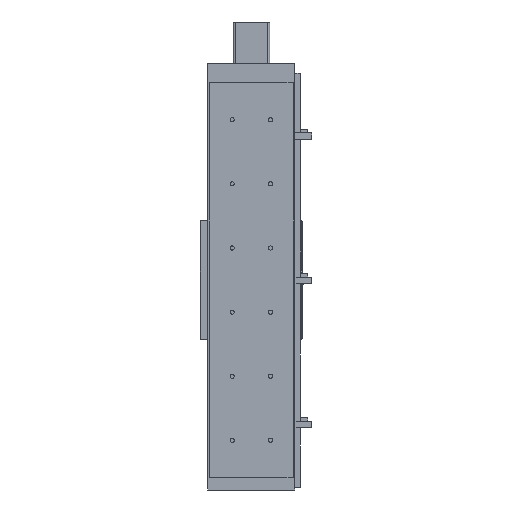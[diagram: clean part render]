
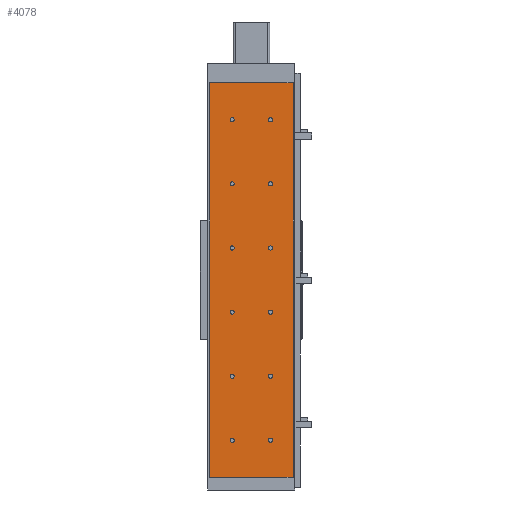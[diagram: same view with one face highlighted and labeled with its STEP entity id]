
A CAD part, front view. The second image highlights one B-rep face of the part: STEP entity #4078.
In plain terms, the highlighted planar face has unit normal (0, -1, 0).
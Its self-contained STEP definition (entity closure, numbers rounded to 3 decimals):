
#2214=CARTESIAN_POINT('',(26.75,0.0,57.5));
#2215=VERTEX_POINT('',#2214);
#2216=CARTESIAN_POINT('',(30.,0.0,57.5));
#2217=DIRECTION('',(0.0,1.0,0.0));
#2218=DIRECTION('',(1.0,0.0,0.0));
#2219=AXIS2_PLACEMENT_3D('',#2216,#2217,#2218);
#2220=CIRCLE('',#2219,3.25);
#2221=EDGE_CURVE('',#2215,#2215,#2220,.T.);
#2255=CARTESIAN_POINT('',(-33.25,0.0,57.5));
#2256=VERTEX_POINT('',#2255);
#2257=CARTESIAN_POINT('',(-30.,0.0,57.5));
#2258=DIRECTION('',(0.0,1.0,0.0));
#2259=DIRECTION('',(1.0,0.0,0.0));
#2260=AXIS2_PLACEMENT_3D('',#2257,#2258,#2259);
#2261=CIRCLE('',#2260,3.25);
#2262=EDGE_CURVE('',#2256,#2256,#2261,.T.);
#2434=CARTESIAN_POINT('',(26.75,0.0,157.5));
#2435=VERTEX_POINT('',#2434);
#2436=CARTESIAN_POINT('',(30.,0.0,157.5));
#2437=DIRECTION('',(0.0,1.0,0.0));
#2438=DIRECTION('',(1.0,0.0,0.0));
#2439=AXIS2_PLACEMENT_3D('',#2436,#2437,#2438);
#2440=CIRCLE('',#2439,3.25);
#2441=EDGE_CURVE('',#2435,#2435,#2440,.T.);
#2475=CARTESIAN_POINT('',(-33.25,0.0,157.5));
#2476=VERTEX_POINT('',#2475);
#2477=CARTESIAN_POINT('',(-30.,0.0,157.5));
#2478=DIRECTION('',(0.0,1.0,0.0));
#2479=DIRECTION('',(1.0,0.0,0.0));
#2480=AXIS2_PLACEMENT_3D('',#2477,#2478,#2479);
#2481=CIRCLE('',#2480,3.25);
#2482=EDGE_CURVE('',#2476,#2476,#2481,.T.);
#2585=CARTESIAN_POINT('',(-33.25,0.0,457.5));
#2586=VERTEX_POINT('',#2585);
#2587=CARTESIAN_POINT('',(-30.,0.0,457.5));
#2588=DIRECTION('',(0.0,1.0,0.0));
#2589=DIRECTION('',(1.0,0.0,0.0));
#2590=AXIS2_PLACEMENT_3D('',#2587,#2588,#2589);
#2591=CIRCLE('',#2590,3.25);
#2592=EDGE_CURVE('',#2586,#2586,#2591,.T.);
#2764=CARTESIAN_POINT('',(26.75,0.0,457.5));
#2765=VERTEX_POINT('',#2764);
#2766=CARTESIAN_POINT('',(30.,0.0,457.5));
#2767=DIRECTION('',(0.0,1.0,0.0));
#2768=DIRECTION('',(1.0,0.0,0.0));
#2769=AXIS2_PLACEMENT_3D('',#2766,#2767,#2768);
#2770=CIRCLE('',#2769,3.25);
#2771=EDGE_CURVE('',#2765,#2765,#2770,.T.);
#2805=CARTESIAN_POINT('',(-33.25,0.0,557.5));
#2806=VERTEX_POINT('',#2805);
#2807=CARTESIAN_POINT('',(-30.,0.0,557.5));
#2808=DIRECTION('',(0.0,1.0,0.0));
#2809=DIRECTION('',(1.0,0.0,0.0));
#2810=AXIS2_PLACEMENT_3D('',#2807,#2808,#2809);
#2811=CIRCLE('',#2810,3.25);
#2812=EDGE_CURVE('',#2806,#2806,#2811,.T.);
#2984=CARTESIAN_POINT('',(26.75,0.0,557.5));
#2985=VERTEX_POINT('',#2984);
#2986=CARTESIAN_POINT('',(30.,0.0,557.5));
#2987=DIRECTION('',(0.0,1.0,0.0));
#2988=DIRECTION('',(1.0,0.0,0.0));
#2989=AXIS2_PLACEMENT_3D('',#2986,#2987,#2988);
#2990=CIRCLE('',#2989,3.25);
#2991=EDGE_CURVE('',#2985,#2985,#2990,.T.);
#3025=CARTESIAN_POINT('',(-33.25,0.0,257.5));
#3026=VERTEX_POINT('',#3025);
#3027=CARTESIAN_POINT('',(-30.,0.0,257.5));
#3028=DIRECTION('',(0.0,1.0,0.0));
#3029=DIRECTION('',(1.0,0.0,0.0));
#3030=AXIS2_PLACEMENT_3D('',#3027,#3028,#3029);
#3031=CIRCLE('',#3030,3.25);
#3032=EDGE_CURVE('',#3026,#3026,#3031,.T.);
#3204=CARTESIAN_POINT('',(26.75,0.0,257.5));
#3205=VERTEX_POINT('',#3204);
#3206=CARTESIAN_POINT('',(30.,0.0,257.5));
#3207=DIRECTION('',(0.0,1.0,0.0));
#3208=DIRECTION('',(1.0,0.0,0.0));
#3209=AXIS2_PLACEMENT_3D('',#3206,#3207,#3208);
#3210=CIRCLE('',#3209,3.25);
#3211=EDGE_CURVE('',#3205,#3205,#3210,.T.);
#3314=CARTESIAN_POINT('',(26.75,0.0,357.5));
#3315=VERTEX_POINT('',#3314);
#3316=CARTESIAN_POINT('',(30.,0.0,357.5));
#3317=DIRECTION('',(0.0,1.0,0.0));
#3318=DIRECTION('',(1.0,0.0,0.0));
#3319=AXIS2_PLACEMENT_3D('',#3316,#3317,#3318);
#3320=CIRCLE('',#3319,3.25);
#3321=EDGE_CURVE('',#3315,#3315,#3320,.T.);
#3424=CARTESIAN_POINT('',(-33.25,0.0,357.5));
#3425=VERTEX_POINT('',#3424);
#3426=CARTESIAN_POINT('',(-30.,0.0,357.5));
#3427=DIRECTION('',(0.0,1.0,0.0));
#3428=DIRECTION('',(1.0,0.0,0.0));
#3429=AXIS2_PLACEMENT_3D('',#3426,#3427,#3428);
#3430=CIRCLE('',#3429,3.25);
#3431=EDGE_CURVE('',#3425,#3425,#3430,.T.);
#3758=CARTESIAN_POINT('',(65.0,0.0,0.0));
#3759=VERTEX_POINT('',#3758);
#3766=CARTESIAN_POINT('',(-65.0,0.0,0.0));
#3767=VERTEX_POINT('',#3766);
#3768=CARTESIAN_POINT('',(-65.0,0.0,0.0));
#3769=DIRECTION('',(1.0,0.0,0.0));
#3770=VECTOR('',#3769,130.0);
#3771=LINE('',#3768,#3770);
#3772=EDGE_CURVE('',#3767,#3759,#3771,.T.);
#3962=CARTESIAN_POINT('',(-65.0,0.0,615.0));
#3963=VERTEX_POINT('',#3962);
#3970=CARTESIAN_POINT('',(65.0,0.0,615.0));
#3971=VERTEX_POINT('',#3970);
#3972=CARTESIAN_POINT('',(65.0,0.0,615.0));
#3973=DIRECTION('',(-1.0,0.0,0.0));
#3974=VECTOR('',#3973,130.0);
#3975=LINE('',#3972,#3974);
#3976=EDGE_CURVE('',#3971,#3963,#3975,.T.);
#3999=CARTESIAN_POINT('',(-65.0,0.0,0.0));
#4000=DIRECTION('',(0.0,0.0,1.0));
#4001=VECTOR('',#4000,615.0);
#4002=LINE('',#3999,#4001);
#4003=EDGE_CURVE('',#3767,#3963,#4002,.T.);
#4021=CARTESIAN_POINT('',(65.0,0.0,0.0));
#4022=DIRECTION('',(0.0,0.0,1.0));
#4023=VECTOR('',#4022,615.0);
#4024=LINE('',#4021,#4023);
#4025=EDGE_CURVE('',#3759,#3971,#4024,.T.);
#4031=CARTESIAN_POINT('',(65.0,0.0,0.0));
#4032=DIRECTION('',(0.0,-1.0,0.0));
#4033=DIRECTION('',(0.0,0.0,-1.0));
#4034=AXIS2_PLACEMENT_3D('',#4031,#4032,#4033);
#4035=PLANE('',#4034);
#4036=ORIENTED_EDGE('',*,*,#3976,.T.);
#4037=ORIENTED_EDGE('',*,*,#4003,.F.);
#4038=ORIENTED_EDGE('',*,*,#3772,.T.);
#4039=ORIENTED_EDGE('',*,*,#4025,.T.);
#4040=EDGE_LOOP('',(#4036,#4037,#4038,#4039));
#4041=FACE_OUTER_BOUND('',#4040,.T.);
#4042=ORIENTED_EDGE('',*,*,#2221,.T.);
#4043=EDGE_LOOP('',(#4042));
#4044=FACE_BOUND('',#4043,.T.);
#4045=ORIENTED_EDGE('',*,*,#2262,.T.);
#4046=EDGE_LOOP('',(#4045));
#4047=FACE_BOUND('',#4046,.T.);
#4048=ORIENTED_EDGE('',*,*,#2441,.T.);
#4049=EDGE_LOOP('',(#4048));
#4050=FACE_BOUND('',#4049,.T.);
#4051=ORIENTED_EDGE('',*,*,#2482,.T.);
#4052=EDGE_LOOP('',(#4051));
#4053=FACE_BOUND('',#4052,.T.);
#4054=ORIENTED_EDGE('',*,*,#2592,.T.);
#4055=EDGE_LOOP('',(#4054));
#4056=FACE_BOUND('',#4055,.T.);
#4057=ORIENTED_EDGE('',*,*,#2771,.T.);
#4058=EDGE_LOOP('',(#4057));
#4059=FACE_BOUND('',#4058,.T.);
#4060=ORIENTED_EDGE('',*,*,#2812,.T.);
#4061=EDGE_LOOP('',(#4060));
#4062=FACE_BOUND('',#4061,.T.);
#4063=ORIENTED_EDGE('',*,*,#2991,.T.);
#4064=EDGE_LOOP('',(#4063));
#4065=FACE_BOUND('',#4064,.T.);
#4066=ORIENTED_EDGE('',*,*,#3032,.T.);
#4067=EDGE_LOOP('',(#4066));
#4068=FACE_BOUND('',#4067,.T.);
#4069=ORIENTED_EDGE('',*,*,#3211,.T.);
#4070=EDGE_LOOP('',(#4069));
#4071=FACE_BOUND('',#4070,.T.);
#4072=ORIENTED_EDGE('',*,*,#3321,.T.);
#4073=EDGE_LOOP('',(#4072));
#4074=FACE_BOUND('',#4073,.T.);
#4075=ORIENTED_EDGE('',*,*,#3431,.T.);
#4076=EDGE_LOOP('',(#4075));
#4077=FACE_BOUND('',#4076,.T.);
#4078=ADVANCED_FACE('',(#4041,#4044,#4047,#4050,#4053,#4056,#4059,#4062,#4065,#4068,#4071,#4074,#4077),#4035,.T.);
